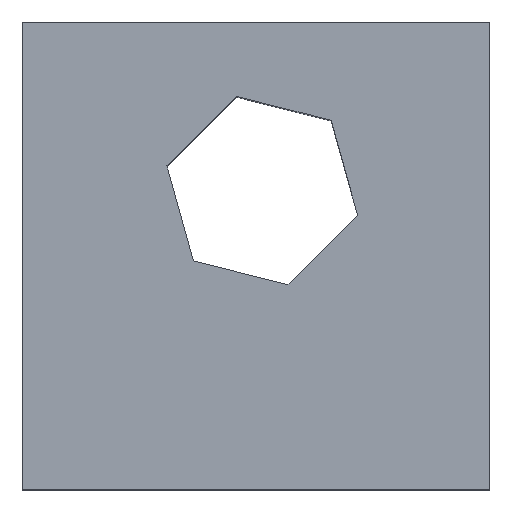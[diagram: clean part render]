
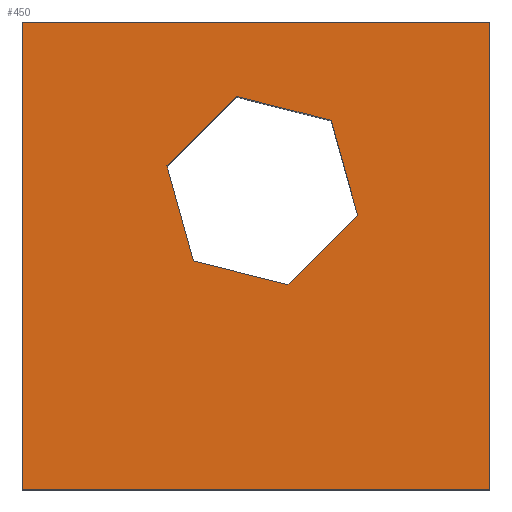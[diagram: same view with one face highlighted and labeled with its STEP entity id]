
A CAD part, top view. The second image highlights one B-rep face of the part: STEP entity #450.
In plain terms, the highlighted planar face has unit normal (0, 0, 1).
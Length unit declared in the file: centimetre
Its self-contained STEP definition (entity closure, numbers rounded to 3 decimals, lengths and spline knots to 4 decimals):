
#8 = FACE_BOUND ( 'NONE', #61, .T. ) ;
#17 = VECTOR ( 'NONE', #552, 100. ) ;
#32 = ORIENTED_EDGE ( 'NONE', *, *, #75, .T. ) ;
#35 = DIRECTION ( 'NONE',  ( -0.969, 0.245, 0. ) ) ;
#37 = ORIENTED_EDGE ( 'NONE', *, *, #58, .T. ) ;
#38 = ORIENTED_EDGE ( 'NONE', *, *, #562, .T. ) ;
#42 = VERTEX_POINT ( 'NONE', #98 ) ;
#43 = LINE ( 'NONE', #71, #505 ) ;
#56 = DIRECTION ( 'NONE',  ( 0.268, -0.963, 0. ) ) ;
#58 = EDGE_CURVE ( 'NONE', #419, #310, #232, .T. ) ;
#61 = EDGE_LOOP ( 'NONE', ( #394, #523, #32, #37, #134, #38 ) ) ;
#69 = VECTOR ( 'NONE', #322, 100. ) ;
#70 = LINE ( 'NONE', #77, #109 ) ;
#71 = CARTESIAN_POINT ( 'NONE',  ( 568.4855, 437.5827, 1000. ) ) ;
#75 = EDGE_CURVE ( 'NONE', #191, #419, #339, .T. ) ;
#77 = CARTESIAN_POINT ( 'NONE',  ( 0., 1000., 1000. ) ) ;
#81 = EDGE_LOOP ( 'NONE', ( #473, #84, #397, #465 ) ) ;
#84 = ORIENTED_EDGE ( 'NONE', *, *, #117, .T. ) ;
#85 = EDGE_CURVE ( 'NONE', #374, #476, #260, .T. ) ;
#87 = DIRECTION ( 'NONE',  ( -0.268, 0.963, 0. ) ) ;
#92 = DIRECTION ( 'NONE',  ( 0.969, -0.245, 0. ) ) ;
#93 = CARTESIAN_POINT ( 'NONE',  ( 0., 0., 1000. ) ) ;
#98 = CARTESIAN_POINT ( 'NONE',  ( 1000., 0., 1000. ) ) ;
#109 = VECTOR ( 'NONE', #245, 100. ) ;
#117 = EDGE_CURVE ( 'NONE', #332, #42, #275, .T. ) ;
#123 = LINE ( 'NONE', #367, #17 ) ;
#134 = ORIENTED_EDGE ( 'NONE', *, *, #230, .T. ) ;
#162 = LINE ( 'NONE', #296, #568 ) ;
#173 = EDGE_CURVE ( 'NONE', #492, #518, #70, .T. ) ;
#178 = CARTESIAN_POINT ( 'NONE',  ( 458.4373, 840.7613, 1000. ) ) ;
#181 = VERTEX_POINT ( 'NONE', #371 ) ;
#184 = FACE_OUTER_BOUND ( 'NONE', #81, .T. ) ;
#190 = DIRECTION ( 'NONE',  ( 1., 0., 0. ) ) ;
#191 = VERTEX_POINT ( 'NONE', #557 ) ;
#192 = CARTESIAN_POINT ( 'NONE',  ( 365.8877, 488.8434, 1000. ) ) ;
#202 = LINE ( 'NONE', #362, #69 ) ;
#203 = EDGE_CURVE ( 'NONE', #42, #492, #162, .T. ) ;
#230 = EDGE_CURVE ( 'NONE', #310, #181, #123, .T. ) ;
#232 = LINE ( 'NONE', #448, #520 ) ;
#245 = DIRECTION ( 'NONE',  ( -1., 0., 0. ) ) ;
#260 = LINE ( 'NONE', #524, #270 ) ;
#270 = VECTOR ( 'NONE', #87, 100. ) ;
#275 = LINE ( 'NONE', #408, #435 ) ;
#277 = VECTOR ( 'NONE', #92, 100. ) ;
#280 = DIRECTION ( 'NONE',  ( 1., 0., 0. ) ) ;
#296 = CARTESIAN_POINT ( 'NONE',  ( 1000., 1000., 1000. ) ) ;
#308 = PLANE ( 'NONE',  #437 ) ;
#310 = VERTEX_POINT ( 'NONE', #503 ) ;
#315 = EDGE_CURVE ( 'NONE', #518, #332, #202, .T. ) ;
#322 = DIRECTION ( 'NONE',  ( 0., -1., 0. ) ) ;
#332 = VERTEX_POINT ( 'NONE', #451 ) ;
#339 = LINE ( 'NONE', #178, #277 ) ;
#362 = CARTESIAN_POINT ( 'NONE',  ( 0., 1000., 1000. ) ) ;
#367 = CARTESIAN_POINT ( 'NONE',  ( 717.4366, 586.5338, 1000. ) ) ;
#370 = VECTOR ( 'NONE', #429, 100. ) ;
#371 = CARTESIAN_POINT ( 'NONE',  ( 568.4855, 437.5827, 1000. ) ) ;
#374 = VERTEX_POINT ( 'NONE', #192 ) ;
#394 = ORIENTED_EDGE ( 'NONE', *, *, #85, .T. ) ;
#397 = ORIENTED_EDGE ( 'NONE', *, *, #203, .T. ) ;
#408 = CARTESIAN_POINT ( 'NONE',  ( 0., 0., 1000. ) ) ;
#410 = EDGE_CURVE ( 'NONE', #476, #191, #563, .T. ) ;
#413 = DIRECTION ( 'NONE',  ( 0., 1., 0. ) ) ;
#419 = VERTEX_POINT ( 'NONE', #487 ) ;
#429 = DIRECTION ( 'NONE',  ( 0.707, 0.707, 0. ) ) ;
#435 = VECTOR ( 'NONE', #280, 100. ) ;
#437 = AXIS2_PLACEMENT_3D ( 'NONE', #93, #446, #190 ) ;
#439 = CARTESIAN_POINT ( 'NONE',  ( 1000., 1000., 1000. ) ) ;
#446 = DIRECTION ( 'NONE',  ( 0., 0., 1. ) ) ;
#448 = CARTESIAN_POINT ( 'NONE',  ( 661.035, 789.5006, 1000. ) ) ;
#450 = ADVANCED_FACE ( 'NONE', ( #8, #184 ), #308, .T. ) ;
#451 = CARTESIAN_POINT ( 'NONE',  ( 0., 0., 1000. ) ) ;
#465 = ORIENTED_EDGE ( 'NONE', *, *, #173, .T. ) ;
#470 = CARTESIAN_POINT ( 'NONE',  ( 309.4862, 691.8102, 1000. ) ) ;
#472 = CARTESIAN_POINT ( 'NONE',  ( 0., 1000., 1000. ) ) ;
#473 = ORIENTED_EDGE ( 'NONE', *, *, #315, .T. ) ;
#476 = VERTEX_POINT ( 'NONE', #534 ) ;
#487 = CARTESIAN_POINT ( 'NONE',  ( 661.035, 789.5006, 1000. ) ) ;
#492 = VERTEX_POINT ( 'NONE', #439 ) ;
#503 = CARTESIAN_POINT ( 'NONE',  ( 717.4366, 586.5338, 1000. ) ) ;
#505 = VECTOR ( 'NONE', #35, 100. ) ;
#518 = VERTEX_POINT ( 'NONE', #472 ) ;
#520 = VECTOR ( 'NONE', #56, 100. ) ;
#523 = ORIENTED_EDGE ( 'NONE', *, *, #410, .T. ) ;
#524 = CARTESIAN_POINT ( 'NONE',  ( 365.8877, 488.8434, 1000. ) ) ;
#534 = CARTESIAN_POINT ( 'NONE',  ( 309.4862, 691.8102, 1000. ) ) ;
#552 = DIRECTION ( 'NONE',  ( -0.707, -0.707, 0. ) ) ;
#557 = CARTESIAN_POINT ( 'NONE',  ( 458.4373, 840.7613, 1000. ) ) ;
#562 = EDGE_CURVE ( 'NONE', #181, #374, #43, .T. ) ;
#563 = LINE ( 'NONE', #470, #370 ) ;
#568 = VECTOR ( 'NONE', #413, 100. ) ;
